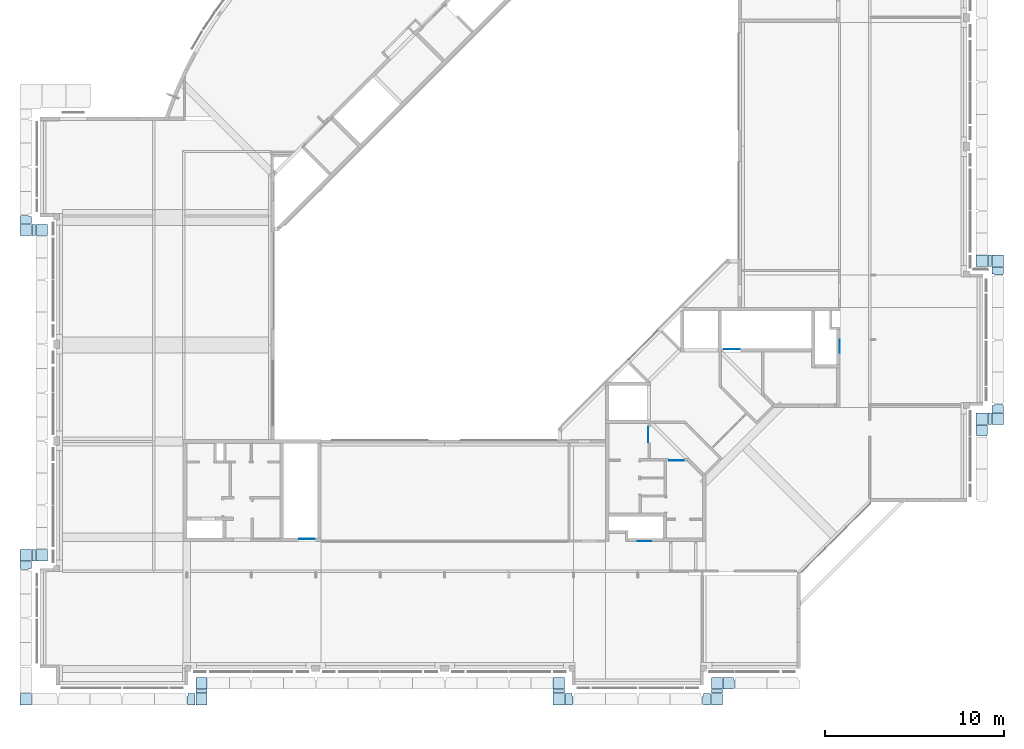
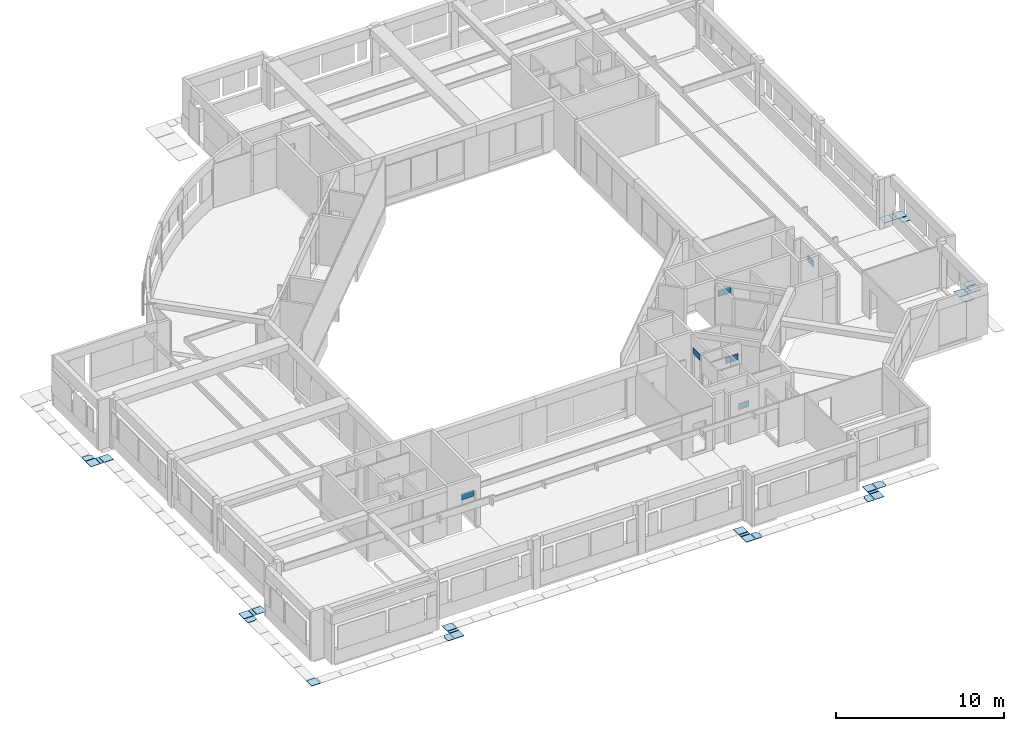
# One storey, part 10 of 26: 31 slabs, 6 plates.
"""IFC4X3_ADD2 building model written with IfcOpenShell, lengths in millimetres."""

from ifc_helpers import new_model, si_unit, direction, frame, frame_2d, origin_with_axes, origin_2d_with_axis, place, context, subcontext, project, spatial, polyline, rectangle, outline, extrude, source, transform, mapped, material, type_object, element, save


model = new_model("IFC4X3_ADD2")

# Units and contexts
model_context = context("Model", 3, precision=1e-05, world=origin_with_axes(), true_north=direction((0.0, 1.0)))
body_context = subcontext(model_context, "Body", "Model", "MODEL_VIEW")
ifc_project = project(units=[si_unit("LENGTHUNIT", "METRE", prefix="MILLI"), si_unit("AREAUNIT", "SQUARE_METRE"), si_unit("VOLUMEUNIT", "CUBIC_METRE"), si_unit("PLANEANGLEUNIT", "RADIAN"), si_unit("TIMEUNIT", "SECOND"), si_unit("MASSUNIT", "GRAM")], contexts=[model_context])

# Site, building, storey
site_placement = place(None, origin_with_axes())
site = spatial("IfcSite", under=ifc_project, at=site_placement, Name="Site", CompositionType="ELEMENT")
building_placement = place(site_placement, origin_with_axes())
building = spatial("IfcBuilding", under=site, at=building_placement, Name="IFC Building Story")
storey_placement = place(building_placement, frame((0.0, 0.0, 7200.0), z_axis=(0.0, 0.0, 1.0), x_axis=(1.0, 0.0, 0.0)))
storey = spatial("IfcBuildingStorey", under=building, at=storey_placement, Name="020", Elevation=7200.0)

# Plates
ifc_material_1 = material(Name="BB_Glas")
shared_shape_1 = source(origin_with_axes(), body_context, "Body", "SweptSolid", [
    extrude(rectangle(XDim=878.000000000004, YDim=454.000000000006, at=origin_2d_with_axis()), frame((0.0, 0.0, -17.0), z_axis=(0.0, 0.0, 1.0), x_axis=(1.0, 0.0, 0.0)), (0.0, 0.0, 1.0), 17.0),
])
plate_1_placement = place(storey_placement, frame((-36780.0, 7168.0, 2284.0), z_axis=(0.0, 1.0, 0.0), x_axis=(-1.0, 0.0, 0.0)))
element("IfcPlate", 1, at=plate_1_placement, inside=storey, material=ifc_material_1, Name="BB_10.10_Binnenbeglazing, rechthoekig_GMO:XX_Geen", ObjectType="BB_10.10_Binnenbeglazing, rechthoekig_GMO:XX_Geen", PredefinedType="USERDEFINED", context=body_context, shape_type="MappedRepresentation", body=[
    mapped(shared_shape_1, transform((0.0, 0.0, 0.0))),
])
shared_shape_2 = source(origin_with_axes(), body_context, "Body", "SweptSolid", [
    extrude(rectangle(XDim=728.000000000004, YDim=454.000000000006, at=origin_2d_with_axis()), frame((0.0, 0.0, -17.0), z_axis=(0.0, 0.0, 1.0), x_axis=(1.0, 0.0, 0.0)), (0.0, 0.0, 1.0), 17.0),
])
for number, where, z_axis, x_axis, name in (
    (2, (-17930.0820395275, 7017.0, 2284.0), (0.0, -1.0, 0.0), (-1.0, 0.0, 0.0), "BB_10.10_Binnenbeglazing, rechthoekig_GMO:XX_Geen"),
    (3, (-7017.0, 17929.7208049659, 2284.0), (1.0, 0.0, 0.0), (0.0, -1.0, 0.0), "BB_10.10_Binnenbeglazing, rechthoekig_GMO:XX_Geen"),
):
    element("IfcPlate", number, at=place(storey_placement, frame(where, z_axis=z_axis, x_axis=x_axis)), inside=storey, material=ifc_material_1, Name=name, ObjectType="BB_10.10_Binnenbeglazing, rechthoekig_GMO:XX_Geen", PredefinedType="USERDEFINED", context=body_context, shape_type="MappedRepresentation", body=[
        mapped(shared_shape_2, transform((0.0, 0.0, 0.0))),
    ])
shared_shape_3 = source(origin_with_axes(), body_context, "Body", "SweptSolid", [
    extrude(rectangle(XDim=828.000000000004, YDim=454.000000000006, at=origin_2d_with_axis()), frame((0.0, 0.0, -17.0), z_axis=(0.0, 0.0, 1.0), x_axis=(1.0, 0.0, 0.0)), (0.0, 0.0, 1.0), 17.0),
])
for number, where, z_axis, x_axis, name in (
    (4, (-17724.0, 12970.0, 2284.0), (-1.0, 0.0, 0.0), (0.0, -1.0, 0.0), "BB_10.10_Binnenbeglazing, rechthoekig_GMO:XX_Geen"),
    (5, (-16147.0, 11526.0, 2284.0), (0.0, -1.0, 0.0), (1.0, 0.0, 0.0), "BB_10.10_Binnenbeglazing, rechthoekig_GMO:XX_Geen"),
):
    element("IfcPlate", number, at=place(storey_placement, frame(where, z_axis=z_axis, x_axis=x_axis)), inside=storey, material=ifc_material_1, Name=name, ObjectType="BB_10.10_Binnenbeglazing, rechthoekig_GMO:XX_Geen", PredefinedType="USERDEFINED", context=body_context, shape_type="MappedRepresentation", body=[
        mapped(shared_shape_3, transform((0.0, 0.0, 0.0))),
    ])
shared_shape_4 = source(origin_with_axes(), body_context, "Body", "SweptSolid", [
    extrude(rectangle(XDim=878.000000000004, YDim=454.000000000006, at=origin_2d_with_axis()), frame((0.0, 0.0, -17.0), z_axis=(0.0, 0.0, 1.0), x_axis=(1.0, 0.0, 0.0)), (0.0, 0.0, 1.0), 17.0),
])
plate_2_placement = place(storey_placement, frame((-13035.0, 17768.0, 2284.0), z_axis=(0.0, 1.0, 0.0), x_axis=(1.0, 0.0, 0.0)))
element("IfcPlate", 6, at=plate_2_placement, inside=storey, material=ifc_material_1, Name="BB_10.10_Binnenbeglazing, rechthoekig_GMO:XX_Geen", ObjectType="BB_10.10_Binnenbeglazing, rechthoekig_GMO:XX_Geen", PredefinedType="USERDEFINED", context=body_context, shape_type="MappedRepresentation", body=[
    mapped(shared_shape_4, transform((0.0, 0.0, 0.0))),
])

# Slabs
ifc_material_2 = material(Name="Steel, Galvanized - looprooster")
slab_type = type_object("IfcSlabType", Name="Steel, Galvanized - looprooster 30", PredefinedType="FLOOR", material=ifc_material_2)
for number, where, z_axis, x_axis, name in (
    (7, (-52819.9983978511, 24100.00160214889, -350.0), (0.0, 0.0, 1.0), (1.0, 0.0, 0.0), "Floor:GVH - Looprooster 30 mm"),
    (8, (-51919.9983978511, 24100.00160214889, -350.0), (0.0, 0.0, 1.0), (1.0, 0.0, 0.0), "Floor:GVH - Looprooster 30 mm"),
    (9, (-52819.99839785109, 5930.001602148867, -350.0), (0.0, 0.0, 1.0), (1.0, 0.0, 0.0), "Floor:GVH - Looprooster 30 mm"),
    (10, (-51919.9983978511, 5930.000450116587, -350.0), (0.0, 0.0, 1.0), (1.0, 0.0, 0.0), "Floor:GVH - Looprooster 30 mm"),
):
    element("IfcSlab", number, at=place(storey_placement, frame(where, z_axis=z_axis, x_axis=x_axis)), inside=storey, type_object=slab_type, Name=name, ObjectType="Floor:GVH - Looprooster 30 mm", PredefinedType="FLOOR", context=body_context, shape_type="SweptSolid", body=[
        extrude(rectangle(XDim=629.9999999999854, YDim=629.9996566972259, at=origin_2d_with_axis()), frame((314.9999999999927, 314.9998283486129, 0.0), z_axis=(0.0, 0.0, 1.0), x_axis=(1.0, 0.0, 0.0)), (0.0, 0.0, 1.0), 29.99999999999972),
    ])
slab_1_placement = place(storey_placement, frame((-43000.0001068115, -1219.998397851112, -350.0), z_axis=(0.0, 0.0, 1.0), x_axis=(1.0, 0.0, 0.0)))
element("IfcSlab", 11, at=slab_1_placement, inside=storey, type_object=slab_type, Name="Floor:GVH - Looprooster 30 mm", ObjectType="Floor:GVH - Looprooster 30 mm", PredefinedType="FLOOR", context=body_context, shape_type="SweptSolid", body=[
    extrude(rectangle(XDim=629.9999999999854, YDim=629.9996566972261, at=origin_2d_with_axis()), frame((314.9999999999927, 314.9998283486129, 0.0), z_axis=(0.0, 0.0, 1.0), x_axis=(1.0, 0.0, 0.0)), (0.0, 0.0, 1.0), 29.99999999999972),
])
slab_2_placement = place(storey_placement, frame((-42999.40492426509, -2119.998397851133, -350.0), z_axis=(0.0, 0.0, 1.0), x_axis=(1.0, 0.0, 0.0)))
element("IfcSlab", 12, at=slab_2_placement, inside=storey, type_object=slab_type, Name="Floor:GVH - Looprooster 30 mm", ObjectType="Floor:GVH - Looprooster 30 mm", PredefinedType="FLOOR", context=body_context, shape_type="SweptSolid", body=[
    extrude(rectangle(XDim=629.9999999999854, YDim=629.9996566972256, at=origin_2d_with_axis()), frame((314.9999999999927, 314.9998283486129, 0.0), z_axis=(0.0, 0.0, 1.0), x_axis=(1.0, 0.0, 0.0)), (0.0, 0.0, 1.0), 29.99999999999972),
])
slab_3_placement = place(storey_placement, frame((-52154.99839785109, 24730.00125884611, -350.0), z_axis=(0.0, 0.0, 1.0), x_axis=(0.0, -1.0, 0.0)))
element("IfcSlab", 13, at=slab_3_placement, inside=storey, type_object=slab_type, Name="Floor:GVH - Looprooster 30 mm", ObjectType="Floor:GVH - Looprooster 30 mm", PredefinedType="FLOOR", context=body_context, shape_type="SweptSolid", body=[
    extrude(rectangle(XDim=629.9996566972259, YDim=199.9999999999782, at=frame_2d((0.0, 0.0), x_axis=(-1.0, 0.0))), frame((314.9998283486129, 99.99999999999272, 0.0), z_axis=(0.0, 0.0, 1.0), x_axis=(1.0, 0.0, 0.0)), (0.0, 0.0, 1.0), 29.99999999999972),
])
slab_4_placement = place(storey_placement, frame((-52819.99950666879, 24768.50125884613, -350.0), z_axis=(0.0, 0.0, 1.0), x_axis=(1.0, 0.0, 0.0)))
element("IfcSlab", 14, at=slab_4_placement, inside=storey, type_object=slab_type, Name="Floor:GVH - Looprooster 30 mm", ObjectType="Floor:GVH - Looprooster 30 mm", PredefinedType="FLOOR", context=body_context, shape_type="SweptSolid", body=[
    extrude(outline(polyline([(347.5005750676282, 85.62462711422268), (347.5005750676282, -308.8740778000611), (-282.4999850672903, -308.8740778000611), (-282.4999850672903, 85.6248235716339), (-267.5011650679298, 85.6248235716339), (-267.5011650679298, 137.624627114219), (202.500575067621, 137.624627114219), (202.500575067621, 85.62462711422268), (347.5005750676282, 85.62462711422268)])), frame((282.4999850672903, 308.8740778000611, 0.0), z_axis=(0.0, 0.0, 1.0), x_axis=(1.0, 0.0, 0.0)), (0.0, 0.0, 1.0), 29.99999999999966),
])
slab_5_placement = place(storey_placement, frame((-52154.99839785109, 6560.001258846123, -350.0), z_axis=(0.0, 0.0, 1.0), x_axis=(0.0, -1.0, 0.0)))
element("IfcSlab", 15, at=slab_5_placement, inside=storey, type_object=slab_type, Name="Floor:GVH - Looprooster 30 mm", ObjectType="Floor:GVH - Looprooster 30 mm", PredefinedType="FLOOR", context=body_context, shape_type="SweptSolid", body=[
    extrude(rectangle(XDim=629.9996566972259, YDim=199.9999999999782, at=frame_2d((0.0, 0.0), x_axis=(-1.0, 0.0))), frame((314.9998283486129, 99.99999999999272, 0.0), z_axis=(0.0, 0.0, 1.0), x_axis=(1.0, 0.0, 0.0)), (0.0, 0.0, 1.0), 29.99999999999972),
])
slab_6_placement = place(storey_placement, frame((-43000.00010681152, -1454.99874115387, -350.0), z_axis=(0.0, 0.0, 1.0), x_axis=(1.0, 0.0, 0.0)))
element("IfcSlab", 16, at=slab_6_placement, inside=storey, type_object=slab_type, Name="Floor:GVH - Looprooster 30 mm", ObjectType="Floor:GVH - Looprooster 30 mm", PredefinedType="FLOOR", context=body_context, shape_type="SweptSolid", body=[
    extrude(rectangle(XDim=629.9996566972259, YDim=199.9999999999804, at=origin_2d_with_axis()), frame((314.9998283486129, 99.99999999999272, 0.0), z_axis=(0.0, 0.0, 1.0), x_axis=(1.0, 0.0, 0.0)), (0.0, 0.0, 1.0), 29.99999999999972),
])
slab_7_placement = place(storey_placement, frame((-52819.99839785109, -2119.998397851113, -350.0), z_axis=(0.0, 0.0, 1.0), x_axis=(1.0, 0.0, 0.0)))
element("IfcSlab", 17, at=slab_7_placement, inside=storey, type_object=slab_type, Name="Floor:GVH - Looprooster 30 mm", ObjectType="Floor:GVH - Looprooster 30 mm", PredefinedType="FLOOR", context=body_context, shape_type="SweptSolid", body=[
    extrude(rectangle(XDim=629.9999999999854, YDim=629.9996566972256, at=origin_2d_with_axis()), frame((314.9999999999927, 314.9998283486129, 0.0), z_axis=(0.0, 0.0, 1.0), x_axis=(1.0, 0.0, 0.0)), (0.0, 0.0, 1.0), 29.99999999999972),
])
slab_8_placement = place(storey_placement, frame((-52819.99839785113, 5444.999963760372, -350.0), z_axis=(0.0, 0.0, 1.0), x_axis=(1.0, 0.0, 0.0)))
element("IfcSlab", 18, at=slab_8_placement, inside=storey, type_object=slab_type, Name="Floor:GVH - Looprooster 30 mm", ObjectType="Floor:GVH - Looprooster 30 mm", PredefinedType="FLOOR", context=body_context, shape_type="SweptSolid", body=[
    extrude(outline(polyline([(-267.5011062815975, -137.6259606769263), (-267.5011062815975, -85.62616094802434), (-282.4988174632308, -85.62616094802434), (-282.4988174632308, 308.8780823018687), (347.5011825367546, 308.8780823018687), (347.5011825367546, -85.62596067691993), (202.4987412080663, -85.62596067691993), (202.4987412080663, -137.6259606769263), (-267.5011062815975, -137.6259606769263)])), frame((282.4988174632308, 137.6259606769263, 0.0), z_axis=(0.0, 0.0, 1.0), x_axis=(1.0, 0.0, 0.0)), (0.0, 0.0, 1.0), 29.99999999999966),
])
slab_9_placement = place(storey_placement, frame((-43485.00000000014, -1489.998741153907, -350.0), z_axis=(0.0, 0.0, 1.0), x_axis=(0.0, -1.0, 0.0)))
element("IfcSlab", 19, at=slab_9_placement, inside=storey, type_object=slab_type, Name="Floor:GVH - Looprooster 30 mm", ObjectType="Floor:GVH - Looprooster 30 mm", PredefinedType="FLOOR", context=body_context, shape_type="SweptSolid", body=[
    extrude(outline(polyline([(282.4992180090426, -85.6255216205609), (267.4995613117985, -85.6255216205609), (267.4995613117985, -137.6255578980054), (-202.4983406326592, -137.6255578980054), (-202.4983406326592, -85.62381269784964), (-347.5004386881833, -85.62381269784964), (-347.5004386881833, 308.8748922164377), (282.4992180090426, 308.8748922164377), (282.4992180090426, -85.6255216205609)])), frame((347.5004386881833, 137.6255578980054, 0.0), z_axis=(0.0, 0.0, 1.0), x_axis=(1.0, 0.0, 0.0)), (0.0, 0.0, 1.0), 29.99999999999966),
])
slab_10_placement = place(storey_placement, frame((-23029.99954988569, -589.998741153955, -350.0), z_axis=(0.0, 0.0, 1.0), x_axis=(0.0, -1.0, 0.0)))
element("IfcSlab", 20, at=slab_10_placement, inside=storey, type_object=slab_type, Name="Floor:GVH - Looprooster 30 mm", ObjectType="Floor:GVH - Looprooster 30 mm", PredefinedType="FLOOR", context=body_context, shape_type="SweptSolid", body=[
    extrude(rectangle(XDim=629.9996566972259, YDim=629.9996566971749, at=frame_2d((0.0, 0.0), x_axis=(-1.0, 0.0))), frame((314.9998283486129, 314.9998283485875, 0.0), z_axis=(0.0, 0.0, 1.0), x_axis=(1.0, 0.0, 0.0)), (0.0, 0.0, 1.0), 29.99999999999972),
])
slab_11_placement = place(storey_placement, frame((-23029.99954988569, -1489.998741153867, -350.0), z_axis=(0.0, 0.0, 1.0), x_axis=(0.0, -1.0, 0.0)))
element("IfcSlab", 21, at=slab_11_placement, inside=storey, type_object=slab_type, Name="Floor:GVH - Looprooster 30 mm", ObjectType="Floor:GVH - Looprooster 30 mm", PredefinedType="FLOOR", context=body_context, shape_type="SweptSolid", body=[
    extrude(rectangle(XDim=629.9996566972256, YDim=629.9996566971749, at=frame_2d((0.0, 0.0), x_axis=(-1.0, 0.0))), frame((314.9998283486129, 314.9998283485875, 0.0), z_axis=(0.0, 0.0, 1.0), x_axis=(1.0, 0.0, 0.0)), (0.0, 0.0, 1.0), 29.99999999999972),
])
for number, where, z_axis, x_axis, name in (
    (22, (-23030.00133132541, -1454.99874115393, -350.0), (0.0, 0.0, 1.0), (1.0, 0.0, 0.0), "Floor:GVH - Looprooster 30 mm"),
    (23, (-14200.00010681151, -1454.99874115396, -350.0), (0.0, 0.0, 1.0), (1.0, 0.0, 0.0), "Floor:GVH - Looprooster 30 mm"),
):
    element("IfcSlab", number, at=place(storey_placement, frame(where, z_axis=z_axis, x_axis=x_axis)), inside=storey, type_object=slab_type, Name=name, ObjectType="Floor:GVH - Looprooster 30 mm", PredefinedType="FLOOR", context=body_context, shape_type="SweptSolid", body=[
        extrude(rectangle(XDim=629.9996566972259, YDim=199.9999999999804, at=origin_2d_with_axis()), frame((314.9998283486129, 99.99999999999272, 0.0), z_axis=(0.0, 0.0, 1.0), x_axis=(1.0, 0.0, 0.0)), (0.0, 0.0, 1.0), 29.99999999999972),
    ])
slab_12_placement = place(storey_placement, frame((-13531.50010681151, -589.998741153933, -350.0), z_axis=(0.0, 0.0, 1.0), x_axis=(0.0, -1.0, 0.0)))
element("IfcSlab", 24, at=slab_12_placement, inside=storey, type_object=slab_type, Name="Floor:GVH - Looprooster 30 mm", ObjectType="Floor:GVH - Looprooster 30 mm", PredefinedType="FLOOR", context=body_context, shape_type="SweptSolid", body=[
    extrude(outline(polyline([(267.499561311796, 101.8750357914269), (282.499218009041, 101.8750357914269), (282.499218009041, -427.6251072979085), (-347.5004386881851, -427.6251072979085), (-347.5004386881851, 136.8750357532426), (-202.4983406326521, 136.8750357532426), (-202.4983406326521, 188.875035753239), (267.499561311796, 188.875035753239), (267.499561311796, 101.8750357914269)])), frame((347.5004386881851, 427.6251072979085, 0.0), z_axis=(0.0, 0.0, 1.0), x_axis=(1.0, 0.0, 0.0)), (0.0, 0.0, 1.0), 29.99999999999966),
])
slab_13_placement = place(storey_placement, frame((-14200.00010681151, -589.998741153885, -350.0), z_axis=(0.0, 0.0, 1.0), x_axis=(0.0, -1.0, 0.0)))
element("IfcSlab", 25, at=slab_13_placement, inside=storey, type_object=slab_type, Name="Floor:GVH - Looprooster 30 mm", ObjectType="Floor:GVH - Looprooster 30 mm", PredefinedType="FLOOR", context=body_context, shape_type="SweptSolid", body=[
    extrude(rectangle(XDim=629.999999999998, YDim=629.9996566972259, at=frame_2d((0.0, 0.0), x_axis=(-1.0, 0.0))), frame((314.9999999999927, 314.9998283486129, 0.0), z_axis=(0.0, 0.0, 1.0), x_axis=(1.0, 0.0, 0.0)), (0.0, 0.0, 1.0), 29.99999999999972),
])
slab_14_placement = place(storey_placement, frame((-14200.00010681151, -1489.998741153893, -350.0), z_axis=(0.0, 0.0, 1.0), x_axis=(0.0, -1.0, 0.0)))
element("IfcSlab", 26, at=slab_14_placement, inside=storey, type_object=slab_type, Name="Floor:GVH - Looprooster 30 mm", ObjectType="Floor:GVH - Looprooster 30 mm", PredefinedType="FLOOR", context=body_context, shape_type="SweptSolid", body=[
    extrude(rectangle(XDim=629.9999999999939, YDim=629.9996566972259, at=frame_2d((0.0, 0.0), x_axis=(-1.0, 0.0))), frame((314.9999999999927, 314.9998283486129, 0.0), z_axis=(0.0, 0.0, 1.0), x_axis=(1.0, 0.0, 0.0)), (0.0, 0.0, 1.0), 29.99999999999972),
])
slab_15_placement = place(storey_placement, frame((-14684.99996372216, -1489.998741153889, -350.0), z_axis=(0.0, 0.0, 1.0), x_axis=(0.0, -1.0, 0.0)))
element("IfcSlab", 27, at=slab_15_placement, inside=storey, type_object=slab_type, Name="Floor:GVH - Looprooster 30 mm", ObjectType="Floor:GVH - Looprooster 30 mm", PredefinedType="FLOOR", context=body_context, shape_type="SweptSolid", body=[
    extrude(outline(polyline([(282.4994773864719, -85.62467620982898), (267.4994773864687, -85.62467620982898), (267.4994773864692, -137.6246762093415), (-202.4984321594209, -137.6246762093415), (-202.4984321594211, -85.62467624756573), (-347.5005226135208, -85.62467624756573), (-347.5005226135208, 308.8740286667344), (282.4994773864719, 308.8740286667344), (282.4994773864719, -85.62467620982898)])), frame((347.5005226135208, 137.6246762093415, 0.0), z_axis=(0.0, 0.0, 1.0), x_axis=(1.0, 0.0, 0.0)), (0.0, 0.0, 1.0), 29.99999999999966),
])
slab_16_placement = place(storey_placement, frame((-22361.49874115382, -1489.998741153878, -350.0), z_axis=(0.0, 0.0, 1.0), x_axis=(0.0, -1.0, 0.0)))
element("IfcSlab", 28, at=slab_16_placement, inside=storey, type_object=slab_type, Name="Floor:GVH - Looprooster 30 mm", ObjectType="Floor:GVH - Looprooster 30 mm", PredefinedType="FLOOR", context=body_context, shape_type="SweptSolid", body=[
    extrude(outline(polyline([(267.4994773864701, 85.62473062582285), (282.4994773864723, 85.62473062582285), (282.4994773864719, -308.8740468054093), (-347.5005226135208, -308.8740468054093), (-347.5005226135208, 85.62465810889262), (-202.4984321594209, 85.62465810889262), (-202.49843215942, 137.624658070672), (267.4994773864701, 137.624658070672), (267.4994773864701, 85.62473062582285)])), frame((347.5005226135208, 308.8740468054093, 0.0), z_axis=(0.0, 0.0, 1.0), x_axis=(1.0, 0.0, 0.0)), (0.0, 0.0, 1.0), 29.99999999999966),
])
slab_17_placement = place(storey_placement, frame((589.9987411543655, 22379.50160214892, -350.0), z_axis=(0.0, 0.0, 1.0), x_axis=(1.0, 0.0, 0.0)))
element("IfcSlab", 29, at=slab_17_placement, inside=storey, type_object=slab_type, Name="Floor:GVH - Looprooster 30 mm", ObjectType="Floor:GVH - Looprooster 30 mm", PredefinedType="FLOOR", context=body_context, shape_type="SweptSolid", body=[
    extrude(rectangle(XDim=629.9996566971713, YDim=629.9996566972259, at=frame_2d((0.0, 0.0), x_axis=(0.0, 1.0))), frame((314.9998283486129, 314.9998283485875, 0.0), z_axis=(0.0, 0.0, 1.0), x_axis=(1.0, 0.0, 0.0)), (0.0, 0.0, 1.0), 29.99999999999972),
])
slab_18_placement = place(storey_placement, frame((1489.998741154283, 22379.50160214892, -350.0), z_axis=(0.0, 0.0, 1.0), x_axis=(1.0, 0.0, 0.0)))
element("IfcSlab", 30, at=slab_18_placement, inside=storey, type_object=slab_type, Name="Floor:GVH - Looprooster 30 mm", ObjectType="Floor:GVH - Looprooster 30 mm", PredefinedType="FLOOR", context=body_context, shape_type="SweptSolid", body=[
    extrude(rectangle(XDim=629.9996566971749, YDim=629.9996566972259, at=frame_2d((0.0, 0.0), x_axis=(0.0, 1.0))), frame((314.9998283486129, 314.9998283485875, 0.0), z_axis=(0.0, 0.0, 1.0), x_axis=(1.0, 0.0, 0.0)), (0.0, 0.0, 1.0), 29.99999999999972),
])
slab_19_placement = place(storey_placement, frame((1254.99874115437, 23009.50304028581, -350.0), z_axis=(0.0, 0.0, 1.0), x_axis=(0.0, -1.0, 0.0)))
element("IfcSlab", 31, at=slab_19_placement, inside=storey, type_object=slab_type, Name="Floor:GVH - Looprooster 30 mm", ObjectType="Floor:GVH - Looprooster 30 mm", PredefinedType="FLOOR", context=body_context, shape_type="SweptSolid", body=[
    extrude(rectangle(XDim=629.9996566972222, YDim=199.9999999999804, at=frame_2d((0.0, 0.0), x_axis=(-1.0, 0.0))), frame((314.9998283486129, 99.99999999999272, 0.0), z_axis=(0.0, 0.0, 1.0), x_axis=(1.0, 0.0, 0.0)), (0.0, 0.0, 1.0), 29.99999999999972),
])
slab_20_placement = place(storey_placement, frame((1254.99874115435, 14180.00010681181, -350.0), z_axis=(0.0, 0.0, 1.0), x_axis=(0.0, -1.0, 0.0)))
element("IfcSlab", 32, at=slab_20_placement, inside=storey, type_object=slab_type, Name="Floor:GVH - Looprooster 30 mm", ObjectType="Floor:GVH - Looprooster 30 mm", PredefinedType="FLOOR", context=body_context, shape_type="SweptSolid", body=[
    extrude(rectangle(XDim=629.9996566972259, YDim=199.9999999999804, at=frame_2d((0.0, 0.0), x_axis=(-1.0, 0.0))), frame((314.9998283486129, 99.99999999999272, 0.0), z_axis=(0.0, 0.0, 1.0), x_axis=(1.0, 0.0, 0.0)), (0.0, 0.0, 1.0), 29.99999999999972),
])
slab_21_placement = place(storey_placement, frame((589.998741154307, 12894.99996376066, -350.0), z_axis=(0.0, 0.0, 1.0), x_axis=(1.0, 0.0, 0.0)))
element("IfcSlab", 33, at=slab_21_placement, inside=storey, type_object=slab_type, Name="Floor:GVH - Looprooster 30 mm", ObjectType="Floor:GVH - Looprooster 30 mm", PredefinedType="FLOOR", context=body_context, shape_type="SweptSolid", body=[
    extrude(outline(polyline([(-202.4983406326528, -188.8750357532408), (-202.4983406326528, -136.8750357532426), (-347.5004386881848, -136.8750357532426), (-347.5004386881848, 427.6251072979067), (282.4992180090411, 427.6251072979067), (282.4992180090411, -101.8750357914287), (267.4995613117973, -101.8750357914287), (267.4995613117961, -188.8750357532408), (-202.4983406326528, -188.8750357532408)])), frame((347.5004386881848, 188.8750357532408, 0.0), z_axis=(0.0, 0.0, 1.0), x_axis=(1.0, 0.0, 0.0)), (0.0, 0.0, 1.0), 29.99999999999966),
])
slab_22_placement = place(storey_placement, frame((589.998741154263, 13550.00045011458, -350.0), z_axis=(0.0, 0.0, 1.0), x_axis=(1.0, 0.0, 0.0)))
element("IfcSlab", 34, at=slab_22_placement, inside=storey, type_object=slab_type, Name="Floor:GVH - Looprooster 30 mm", ObjectType="Floor:GVH - Looprooster 30 mm", PredefinedType="FLOOR", context=body_context, shape_type="SweptSolid", body=[
    extrude(rectangle(XDim=629.9999999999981, YDim=629.9996566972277, at=origin_2d_with_axis()), frame((314.9999999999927, 314.9998283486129, 0.0), z_axis=(0.0, 0.0, 1.0), x_axis=(1.0, 0.0, 0.0)), (0.0, 0.0, 1.0), 29.99999999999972),
])
slab_23_placement = place(storey_placement, frame((1489.998741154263, 13550.00045011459, -350.0), z_axis=(0.0, 0.0, 1.0), x_axis=(1.0, 0.0, 0.0)))
element("IfcSlab", 35, at=slab_23_placement, inside=storey, type_object=slab_type, Name="Floor:GVH - Looprooster 30 mm", ObjectType="Floor:GVH - Looprooster 30 mm", PredefinedType="FLOOR", context=body_context, shape_type="SweptSolid", body=[
    extrude(rectangle(XDim=629.9999999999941, YDim=629.9996566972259, at=origin_2d_with_axis()), frame((314.9999999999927, 314.9998283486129, 0.0), z_axis=(0.0, 0.0, 1.0), x_axis=(1.0, 0.0, 0.0)), (0.0, 0.0, 1.0), 29.99999999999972),
])
slab_24_placement = place(storey_placement, frame((1489.998741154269, 14218.50125884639, -350.0), z_axis=(0.0, 0.0, 1.0), x_axis=(1.0, 0.0, 0.0)))
element("IfcSlab", 36, at=slab_24_placement, inside=storey, type_object=slab_type, Name="Floor:GVH - Looprooster 30 mm", ObjectType="Floor:GVH - Looprooster 30 mm", PredefinedType="FLOOR", context=body_context, shape_type="SweptSolid", body=[
    extrude(outline(polyline([(282.4994773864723, 85.62491818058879), (282.4994773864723, -308.8741093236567), (-347.5005226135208, -308.8741093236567), (-347.5005226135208, 85.62459559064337), (-202.4984321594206, 85.62459559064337), (-202.4984321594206, 137.6245955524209), (267.4994773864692, 137.6245955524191), (267.4994773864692, 85.62491818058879), (282.4994773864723, 85.62491818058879)])), frame((347.5005226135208, 308.8741093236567, 0.0), z_axis=(0.0, 0.0, 1.0), x_axis=(1.0, 0.0, 0.0)), (0.0, 0.0, 1.0), 29.99999999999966),
])
slab_25_placement = place(storey_placement, frame((1489.998741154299, 21895.00003627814, -350.0), z_axis=(0.0, 0.0, 1.0), x_axis=(1.0, 0.0, 0.0)))
element("IfcSlab", 37, at=slab_25_placement, inside=storey, type_object=slab_type, Name="Floor:GVH - Looprooster 30 mm", ObjectType="Floor:GVH - Looprooster 30 mm", PredefinedType="FLOOR", context=body_context, shape_type="SweptSolid", body=[
    extrude(outline(polyline([(-202.4984321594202, -137.6246166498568), (-202.4984321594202, -85.62461668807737), (-347.5005226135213, -85.62461668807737), (-347.5005226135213, 308.8740882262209), (282.4994773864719, 308.8740882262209), (282.4994773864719, -85.62485488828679), (267.4994773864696, -85.62485488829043), (267.4994773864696, -137.6246166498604), (-202.4984321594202, -137.6246166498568)])), frame((347.5005226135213, 137.6246166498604, 0.0), z_axis=(0.0, 0.0, 1.0), x_axis=(1.0, 0.0, 0.0)), (0.0, 0.0, 1.0), 29.99999999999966),
])

save(model, "model.ifc")
